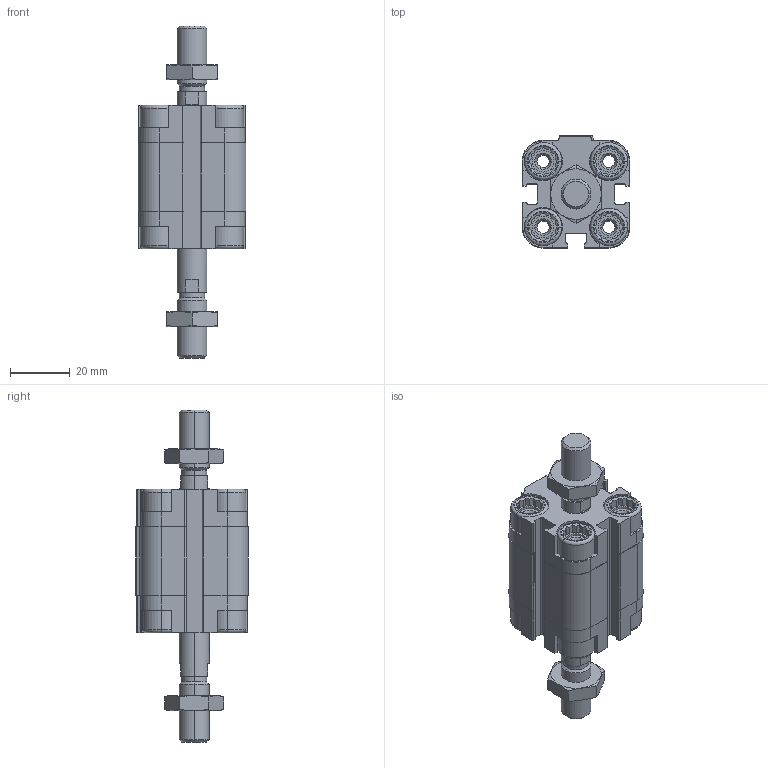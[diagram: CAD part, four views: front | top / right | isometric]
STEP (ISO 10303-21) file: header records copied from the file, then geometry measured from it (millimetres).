
FILE_DESCRIPTION (( 'STEP AP203' ), '1' );
FILE_NAME ('CDVU20-10M-P.STEP', '2020-07-21T15:07:23', ( '' ), ( '' ), 'SwSTEP 2.0', 'SolidWorks 2019', '' );
FILE_SCHEMA (( 'CONFIG_CONTROL_DESIGN' ));
Length unit declared in the file: millimetre
Products named in the file (1): CDVU20-10M-P
Bounding box: 36 x 37.5 x 111 mm (x, y, z)
Volume: 53133.3 mm3; surface area: 25493.2 mm2
Topology: 4 solids, 4 shells, 642 faces, 1674 edges, 1078 vertices
Faces by surface type: plane 374, cylinder 188, cone 64, torus 16
Entity records: 20369 total; most frequent: CARTESIAN_POINT 4535, ORIENTED_EDGE 3340, DIRECTION 3212, EDGE_CURVE 1670, AXIS2_PLACEMENT_3D 1115, VERTEX_POINT 1078, VECTOR 982, LINE 982
